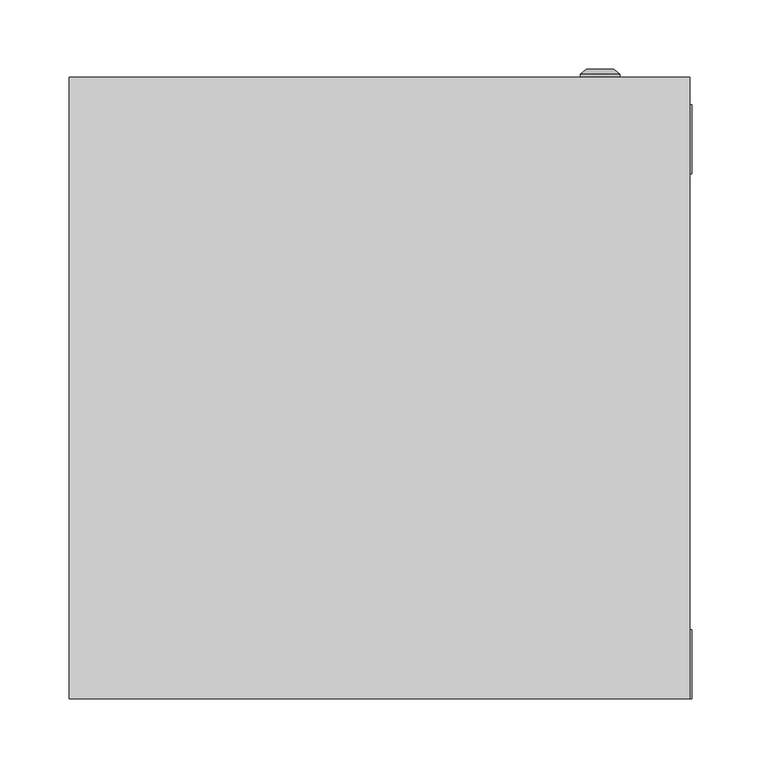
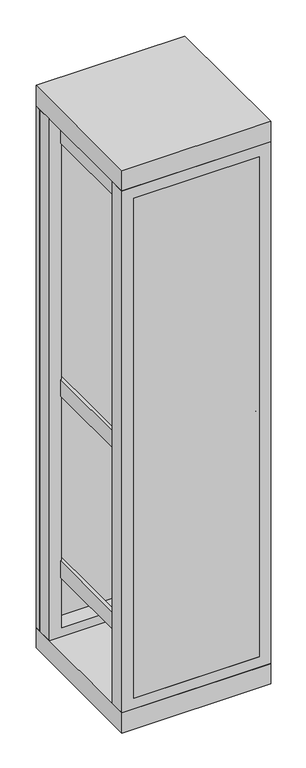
"""IFC4 building model written with IfcOpenShell, lengths in millimetres: proxy geometry, ВРУ-1 : ВРУ-1_1800х450х450."""

from ifc_helpers import new_model, si_unit, frame, origin, origin_with_axes, place, context, project, spatial, polyline, circle_curve, outline, extrude, source, transform, mapped, element, save
from ifc_brep_helpers import plane_surface, cylinder_surface, revolved_surface, advanced_brep


def electrical_equipment_461fbd14(model_context):
    return source(origin(), model_context, "Body", "SolidModel", [
        extrude(outline(polyline([(190.8707865, 0.0), (-188.3426966, 0.0), (-188.3426966, 10.0), (190.8707865, 10.0), (190.8707865, 0.0)])), frame((0.0, 0.0, 99.1378449), z_axis=(0.0, 0.0, 1.0), x_axis=(1.0, 0.0, 0.0)), (0.0, 0.0, 1.0), 1599.6160511),
        extrude(outline(polyline([(-180.8707865, 125.9831461), (-140.8707865, 125.9831461), (-140.8707865, 93.1179775), (-143.8707865, 93.1179775), (-143.8707865, 122.9831461), (-177.8707865, 122.9831461), (-177.8707865, 93.1179775), (-180.8707865, 93.1179775), (-180.8707865, 125.9831461)])), frame((0.0, 0.0, 189.6067416), z_axis=(0.0, 0.0, 1.0), x_axis=(1.0, 0.0, 0.0)), (0.0, 0.0, 1.0), 1545.3932584),
        extrude(outline(polyline([(140.8707865, 125.9831461), (180.8707865, 125.9831461), (180.8707865, 93.1179775), (177.8707865, 93.1179775), (177.8707865, 122.9831461), (143.8707865, 122.9831461), (143.8707865, 93.1179775), (140.8707865, 93.1179775), (140.8707865, 125.9831461)])), frame((0.0, 0.0, 189.6067416), z_axis=(0.0, 0.0, 1.0), x_axis=(1.0, 0.0, 0.0)), (0.0, 0.0, 1.0), 1545.3932584),
        extrude(outline(polyline([(-180.8707865, 10.0), (-190.8707865, 10.0), (-190.8707865, 430.0), (-180.8707865, 430.0), (-180.8707865, 10.0)])), frame((0.0, 0.0, 1645.5966059), z_axis=(0.0, 0.0, 1.0), x_axis=(1.0, 0.0, 0.0)), (0.0, 0.0, 1.0), 53.0898876),
        extrude(outline(polyline([(190.8707865, 10.0), (180.8707865, 10.0), (180.8707865, 430.0), (190.8707865, 430.0), (190.8707865, 10.0)])), frame((0.0, 0.0, 1645.5966059), z_axis=(0.0, 0.0, 1.0), x_axis=(1.0, 0.0, 0.0)), (0.0, 0.0, 1.0), 53.0898876),
        extrude(outline(polyline([(-180.8707865, 10.0), (-190.8707865, 10.0), (-190.8707865, 430.0), (-180.8707865, 430.0), (-180.8707865, 10.0)])), frame((0.0, 0.0, 255.5966059), z_axis=(0.0, 0.0, 1.0), x_axis=(1.0, 0.0, 0.0)), (0.0, 0.0, 1.0), 53.0898876),
        extrude(outline(polyline([(190.8707865, 10.0), (180.8707865, 10.0), (180.8707865, 430.0), (190.8707865, 430.0), (190.8707865, 10.0)])), frame((0.0, 0.0, 255.5966059), z_axis=(0.0, 0.0, 1.0), x_axis=(1.0, 0.0, 0.0)), (0.0, 0.0, 1.0), 53.0898876),
        extrude(outline(polyline([(-180.8707865, 10.0), (-190.8707865, 10.0), (-190.8707865, 430.0), (-180.8707865, 430.0), (-180.8707865, 10.0)])), frame((0.0, 0.0, 835.5966059), z_axis=(0.0, 0.0, 1.0), x_axis=(1.0, 0.0, 0.0)), (0.0, 0.0, 1.0), 53.0898876),
        extrude(outline(polyline([(190.8707865, 0.0), (180.8707865, 0.0), (180.8707865, 430.0), (190.8707865, 430.0), (190.8707865, 0.0)])), frame((0.0, 0.0, 835.5966059), z_axis=(0.0, 0.0, 1.0), x_axis=(1.0, 0.0, 0.0)), (0.0, 0.0, 1.0), 53.0898876),
        extrude(outline(polyline([(1734.1471543, -225.0), (65.0187804, -225.0), (65.0187804, 226.2640449), (1734.1471543, 226.2640449), (1734.1471543, -225.0)]), holes=[polyline([(99.1378449, 190.8707865), (99.1378449, -188.3426966), (1698.7538959, -188.3426966), (1698.7538959, 190.8707865), (99.1378449, 190.8707865)])]), frame((0.0, 0.0, 0.0), z_axis=(0.0, 1.0, 0.0), x_axis=(0.0, 0.0, 1.0)), (0.0, 0.0, 1.0), 50.0),
        extrude(outline(polyline([(1735.0, -225.0), (65.0187804, -225.0), (65.0187804, 226.2640449), (1735.0, 226.2640449), (1735.0, -225.0)]), holes=[polyline([(93.3701084, 190.8707865), (93.3701084, -188.3426966), (1692.9861595, -188.3426966), (1692.9861595, 190.8707865), (93.3701084, 190.8707865)])]), frame((0.0, 380.0, 0.0), z_axis=(0.0, 1.0, 0.0), x_axis=(0.0, 0.0, 1.0)), (0.0, 0.0, 1.0), 50.0),
        extrude(outline(polyline([(225.0067809, 450.0), (225.0067809, 0.0), (-225.0, 0.0), (-225.0, 450.0), (225.0067809, 450.0)])), frame((0.0, 0.0, 1735.0), z_axis=(0.0, 0.0, 1.0), x_axis=(1.0, 0.0, 0.0)), (0.0, 0.0, 1.0), 65.0),
        advanced_brep(
        [(145.669873, 450.0, 415.0), (174.330127, 450.0, 415.0), (160.0, 450.0, 415.0), (145.669873, 452.366592, 415.0), (174.330127, 452.366592, 415.0), (150.0, 456.0, 415.0), (170.0, 456.0, 415.0), (158.1080471, 456.0, 415.0), (161.8919529, 456.0, 415.0), (158.1080471, 454.9822294, 415.0), (161.8919529, 454.9822294, 415.0), (160.0, 454.9822294, 415.0)],
        [
            (0, 1, circle_curve(frame((160.0, 450.0, 415.0), z_axis=(0.0, -1.0, 0.0), x_axis=(1.0, 0.0, 0.0)), 14.330127)),
            (1, 2),
            (2, 0),
            (1, 0, circle_curve(frame((160.0, 450.0, 415.0), z_axis=(0.0, -1.0, 0.0), x_axis=(1.0, 0.0, 0.0)), 14.330127)),
            (3, 4, circle_curve(frame((160.0, 452.366592, 415.0), z_axis=(0.0, -1.0, 0.0), x_axis=(1.0, 0.0, 0.0)), 14.330127)),
            (4, 1),
            (0, 3),
            (4, 3, circle_curve(frame((160.0, 452.366592, 415.0), z_axis=(0.0, -1.0, 0.0), x_axis=(1.0, 0.0, 0.0)), 14.330127)),
            (5, 6, circle_curve(frame((160.0, 456.0, 415.0), z_axis=(0.0, -1.0, 0.0), x_axis=(1.0, 0.0, 0.0)), 10.0)),
            (6, 4),
            (3, 5),
            (6, 5, circle_curve(frame((160.0, 456.0, 415.0), z_axis=(0.0, -1.0, 0.0), x_axis=(1.0, 0.0, 0.0)), 10.0)),
            (7, 8, circle_curve(frame((160.0, 456.0, 415.0), z_axis=(0.0, -1.0, 0.0), x_axis=(1.0, 0.0, 0.0)), 1.8919529)),
            (8, 6),
            (5, 7),
            (8, 7, circle_curve(frame((160.0, 456.0, 415.0), z_axis=(0.0, -1.0, 0.0), x_axis=(1.0, 0.0, 0.0)), 1.8919529)),
            (9, 10, circle_curve(frame((160.0, 454.9822294, 415.0), z_axis=(0.0, -1.0, 0.0), x_axis=(1.0, 0.0, 0.0)), 1.8919529)),
            (10, 8),
            (7, 9),
            (10, 9, circle_curve(frame((160.0, 454.9822294, 415.0), z_axis=(0.0, -1.0, 0.0), x_axis=(1.0, 0.0, 0.0)), 1.8919529)),
            (11, 10),
            (9, 11),
        ],
        [
            plane_surface(frame((160.0, 450.0, 415.0), z_axis=(0.0, -1.0, 0.0), x_axis=(1.0, 0.0, 0.0))),
            cylinder_surface(frame((160.0, 463.1348851, 415.0), z_axis=(0.0, 1.0, 0.0), x_axis=(1.0, 0.0, 0.0)), 14.330127),
            revolved_surface(polyline([(174.330127, 452.366592, 415.0), (170.0, 456.0, 415.0)]), (160.0, 463.1348851, 415.0), (0.0, 1.0, 0.0)),
            plane_surface(frame((160.0, 456.0, 415.0), z_axis=(0.0, 1.0, 0.0), x_axis=(1.0, 0.0, 0.0))),
            revolved_surface(polyline([(161.8919529, 456.0, 415.0), (161.8919529, 454.9822294, 415.0)]), (160.0, 463.1348851, 415.0), (0.0, 1.0, 0.0)),
            plane_surface(frame((160.0, 454.9822294, 415.0), z_axis=(0.0, 1.0, 0.0), x_axis=(1.0, 0.0, 0.0))),
        ],
        [
            (0, [[1, 2, 3]]),
            (0, [[4, -3, -2]]),
            (1, [[5, 6, -1, 7]]),
            (1, [[8, -7, -4, -6]]),
            (2, [[9, 10, -5, 11]]),
            (2, [[12, -11, -8, -10]]),
            (3, [[13, 14, -9, 15]]),
            (3, [[16, -15, -12, -14]]),
            (4, [[17, 18, -13, 19]]),
            (4, [[20, -19, -16, -18]]),
            (5, [[21, -17, 22]]),
            (5, [[-22, -20, -21]]),
        ],
    ),
        advanced_brep(
        [(145.669873, 450.0, 1385.0), (174.330127, 450.0, 1385.0), (160.0, 450.0, 1385.0), (145.669873, 452.366592, 1385.0), (174.330127, 452.366592, 1385.0), (150.0, 456.0, 1385.0), (170.0, 456.0, 1385.0), (158.1080471, 456.0, 1385.0), (161.8919529, 456.0, 1385.0), (158.1080471, 454.9822294, 1385.0), (161.8919529, 454.9822294, 1385.0), (160.0, 454.9822294, 1385.0)],
        [
            (0, 1, circle_curve(frame((160.0, 450.0, 1385.0), z_axis=(0.0, -1.0, 0.0), x_axis=(1.0, 0.0, 0.0)), 14.330127)),
            (1, 2),
            (2, 0),
            (1, 0, circle_curve(frame((160.0, 450.0, 1385.0), z_axis=(0.0, -1.0, 0.0), x_axis=(1.0, 0.0, 0.0)), 14.330127)),
            (3, 4, circle_curve(frame((160.0, 452.366592, 1385.0), z_axis=(0.0, -1.0, 0.0), x_axis=(1.0, 0.0, 0.0)), 14.330127)),
            (4, 1),
            (0, 3),
            (4, 3, circle_curve(frame((160.0, 452.366592, 1385.0), z_axis=(0.0, -1.0, 0.0), x_axis=(1.0, 0.0, 0.0)), 14.330127)),
            (5, 6, circle_curve(frame((160.0, 456.0, 1385.0), z_axis=(0.0, -1.0, 0.0), x_axis=(1.0, 0.0, 0.0)), 10.0)),
            (6, 4),
            (3, 5),
            (6, 5, circle_curve(frame((160.0, 456.0, 1385.0), z_axis=(0.0, -1.0, 0.0), x_axis=(1.0, 0.0, 0.0)), 10.0)),
            (7, 8, circle_curve(frame((160.0, 456.0, 1385.0), z_axis=(0.0, -1.0, 0.0), x_axis=(1.0, 0.0, 0.0)), 1.8919529)),
            (8, 6),
            (5, 7),
            (8, 7, circle_curve(frame((160.0, 456.0, 1385.0), z_axis=(0.0, -1.0, 0.0), x_axis=(1.0, 0.0, 0.0)), 1.8919529)),
            (9, 10, circle_curve(frame((160.0, 454.9822294, 1385.0), z_axis=(0.0, -1.0, 0.0), x_axis=(1.0, 0.0, 0.0)), 1.8919529)),
            (10, 8),
            (7, 9),
            (10, 9, circle_curve(frame((160.0, 454.9822294, 1385.0), z_axis=(0.0, -1.0, 0.0), x_axis=(1.0, 0.0, 0.0)), 1.8919529)),
            (11, 10),
            (9, 11),
        ],
        [
            plane_surface(frame((160.0, 450.0, 1385.0), z_axis=(0.0, -1.0, 0.0), x_axis=(1.0, 0.0, 0.0))),
            cylinder_surface(frame((160.0, 463.1348851, 1385.0), z_axis=(0.0, 1.0, 0.0), x_axis=(1.0, 0.0, 0.0)), 14.330127),
            revolved_surface(polyline([(174.330127, 452.366592, 1385.0), (170.0, 456.0, 1385.0)]), (160.0, 463.1348851, 1385.0), (0.0, 1.0, 0.0)),
            plane_surface(frame((160.0, 456.0, 1385.0), z_axis=(0.0, 1.0, 0.0), x_axis=(1.0, 0.0, 0.0))),
            revolved_surface(polyline([(161.8919529, 456.0, 1385.0), (161.8919529, 454.9822294, 1385.0)]), (160.0, 463.1348851, 1385.0), (0.0, 1.0, 0.0)),
            plane_surface(frame((160.0, 454.9822294, 1385.0), z_axis=(0.0, 1.0, 0.0), x_axis=(1.0, 0.0, 0.0))),
        ],
        [
            (0, [[1, 2, 3]]),
            (0, [[4, -3, -2]]),
            (1, [[5, 6, -1, 7]]),
            (1, [[8, -7, -4, -6]]),
            (2, [[9, 10, -5, 11]]),
            (2, [[12, -11, -8, -10]]),
            (3, [[13, 14, -9, 15]]),
            (3, [[16, -15, -12, -14]]),
            (4, [[17, 18, -13, 19]]),
            (4, [[20, -19, -16, -18]]),
            (5, [[21, -17, 22]]),
            (5, [[-22, -20, -21]]),
        ],
    ),
        extrude(outline(polyline([(225.0067809, 450.0), (225.0067809, 0.0), (-225.0, 0.0), (-225.0, 450.0), (225.0067809, 450.0)])), origin_with_axes(), (0.0, 0.0, 1.0), 65.0187804),
        extrude(outline(polyline([(225.0, 430.0), (-225.0, 430.0), (-225.0, 450.0), (225.0, 450.0), (225.0, 430.0)])), frame((0.0, 0.0, 65.0187804), z_axis=(0.0, 0.0, 1.0), x_axis=(1.0, 0.0, 0.0)), (0.0, 0.0, 1.0), 1669.9812196),
    ])


if __name__ == "__main__":
    model = new_model("IFC4")
    model_context = context("Model", 3, world=origin())
    ifc_project = project(units=[si_unit("LENGTHUNIT", "METRE", prefix="MILLI")], contexts=[model_context])
    site = spatial("IfcSite", under=ifc_project)
    building = spatial("IfcBuilding", under=site)
    placement = place(None, origin())
    electrical_equipment_shape = electrical_equipment_461fbd14(model_context)
    element("IfcBuildingElementProxy", 1, Name="ВРУ-1 : ВРУ-1_1800х450х450", ObjectType="ВРУ-1 : ВРУ-1_1800х450х450", at=placement, inside=building, context=model_context, shape_type="MappedRepresentation", body=[
        mapped(electrical_equipment_shape, transform((0.0, 0.0, 0.0), x_axis=(1.0, 0.0, 0.0), y_axis=(0.0, 1.0, 0.0), z_axis=(0.0, 0.0, 1.0))),
    ])
    save(model, "model.ifc")
